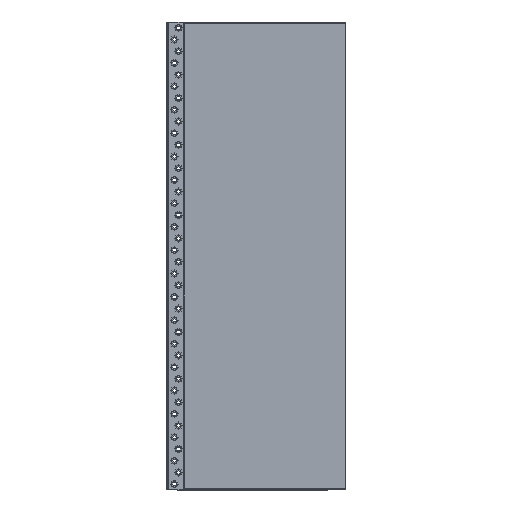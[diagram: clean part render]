
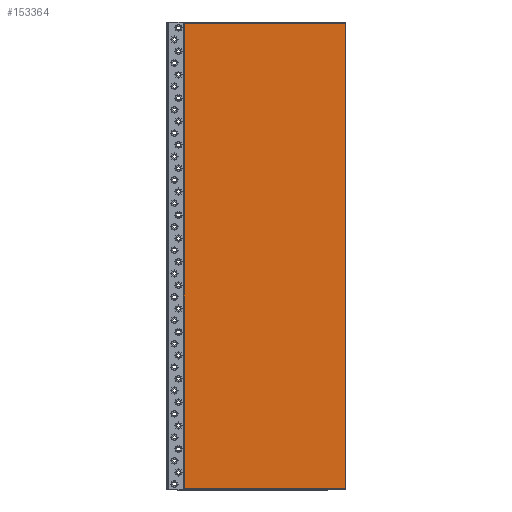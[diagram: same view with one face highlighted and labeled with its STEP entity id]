
A CAD part, top view. The second image highlights one B-rep face of the part: STEP entity #153364.
In plain terms, the highlighted planar face has unit normal (0, 0, 1).
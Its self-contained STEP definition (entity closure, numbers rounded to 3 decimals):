
#153050 = VERTEX_POINT('',#153051);
#153051 = CARTESIAN_POINT('',(13805.885,3003.,
    0.));
#153058 = PLANE('',#153059);
#153059 = AXIS2_PLACEMENT_3D('',#153060,#153061,#153062);
#153060 = CARTESIAN_POINT('',(13805.885,3003.,
    -25.));
#153061 = DIRECTION('',(0.,1.,0.));
#153062 = DIRECTION('',(1.,0.,0.));
#153070 = PLANE('',#153071);
#153071 = AXIS2_PLACEMENT_3D('',#153072,#153073,#153074);
#153072 = CARTESIAN_POINT('',(13805.885,3797.,
    -25.));
#153073 = DIRECTION('',(1.,0.,0.));
#153074 = DIRECTION('',(0.,-1.,0.));
#153082 = EDGE_CURVE('',#153050,#153083,#153085,.T.);
#153083 = VERTEX_POINT('',#153084);
#153084 = CARTESIAN_POINT('',(14081.385,3003.,
    0.));
#153085 = SURFACE_CURVE('',#153086,(#153090,#153097),.PCURVE_S1.);
#153086 = LINE('',#153087,#153088);
#153087 = CARTESIAN_POINT('',(13805.885,3003.,
    0.));
#153088 = VECTOR('',#153089,1.);
#153089 = DIRECTION('',(1.,0.,0.));
#153090 = PCURVE('',#153058,#153091);
#153091 = DEFINITIONAL_REPRESENTATION('',(#153092),#153096);
#153092 = LINE('',#153093,#153094);
#153093 = CARTESIAN_POINT('',(0.,-25.));
#153094 = VECTOR('',#153095,1.);
#153095 = DIRECTION('',(1.,0.));
#153096 = ( GEOMETRIC_REPRESENTATION_CONTEXT(2) 
PARAMETRIC_REPRESENTATION_CONTEXT() REPRESENTATION_CONTEXT('2D SPACE',''
  ) );
#153097 = PCURVE('',#153098,#153103);
#153098 = PLANE('',#153099);
#153099 = AXIS2_PLACEMENT_3D('',#153100,#153101,#153102);
#153100 = CARTESIAN_POINT('',(13943.635,3400.,
    0.));
#153101 = DIRECTION('',(0.,0.,1.));
#153102 = DIRECTION('',(1.,0.,0.));
#153103 = DEFINITIONAL_REPRESENTATION('',(#153104),#153108);
#153104 = LINE('',#153105,#153106);
#153105 = CARTESIAN_POINT('',(-137.75,-397.));
#153106 = VECTOR('',#153107,1.);
#153107 = DIRECTION('',(1.,0.));
#153108 = ( GEOMETRIC_REPRESENTATION_CONTEXT(2) 
PARAMETRIC_REPRESENTATION_CONTEXT() REPRESENTATION_CONTEXT('2D SPACE',''
  ) );
#153126 = PLANE('',#153127);
#153127 = AXIS2_PLACEMENT_3D('',#153128,#153129,#153130);
#153128 = CARTESIAN_POINT('',(14081.385,3003.,
    -25.));
#153129 = DIRECTION('',(-1.,0.,0.));
#153130 = DIRECTION('',(0.,1.,0.));
#153168 = EDGE_CURVE('',#153083,#153169,#153171,.T.);
#153169 = VERTEX_POINT('',#153170);
#153170 = CARTESIAN_POINT('',(14081.385,3797.,
    0.));
#153171 = SURFACE_CURVE('',#153172,(#153176,#153183),.PCURVE_S1.);
#153172 = LINE('',#153173,#153174);
#153173 = CARTESIAN_POINT('',(14081.385,3003.,
    0.));
#153174 = VECTOR('',#153175,1.);
#153175 = DIRECTION('',(0.,1.,0.));
#153176 = PCURVE('',#153126,#153177);
#153177 = DEFINITIONAL_REPRESENTATION('',(#153178),#153182);
#153178 = LINE('',#153179,#153180);
#153179 = CARTESIAN_POINT('',(0.,-25.));
#153180 = VECTOR('',#153181,1.);
#153181 = DIRECTION('',(1.,0.));
#153182 = ( GEOMETRIC_REPRESENTATION_CONTEXT(2) 
PARAMETRIC_REPRESENTATION_CONTEXT() REPRESENTATION_CONTEXT('2D SPACE',''
  ) );
#153183 = PCURVE('',#153098,#153184);
#153184 = DEFINITIONAL_REPRESENTATION('',(#153185),#153189);
#153185 = LINE('',#153186,#153187);
#153186 = CARTESIAN_POINT('',(137.75,-397.));
#153187 = VECTOR('',#153188,1.);
#153188 = DIRECTION('',(0.,1.));
#153189 = ( GEOMETRIC_REPRESENTATION_CONTEXT(2) 
PARAMETRIC_REPRESENTATION_CONTEXT() REPRESENTATION_CONTEXT('2D SPACE',''
  ) );
#153207 = PLANE('',#153208);
#153208 = AXIS2_PLACEMENT_3D('',#153209,#153210,#153211);
#153209 = CARTESIAN_POINT('',(14081.385,3797.,
    -25.));
#153210 = DIRECTION('',(0.,-1.,0.));
#153211 = DIRECTION('',(-1.,0.,0.));
#153244 = EDGE_CURVE('',#153169,#153245,#153247,.T.);
#153245 = VERTEX_POINT('',#153246);
#153246 = CARTESIAN_POINT('',(13805.885,3797.,
    0.));
#153247 = SURFACE_CURVE('',#153248,(#153252,#153259),.PCURVE_S1.);
#153248 = LINE('',#153249,#153250);
#153249 = CARTESIAN_POINT('',(14081.385,3797.,
    0.));
#153250 = VECTOR('',#153251,1.);
#153251 = DIRECTION('',(-1.,0.,0.));
#153252 = PCURVE('',#153207,#153253);
#153253 = DEFINITIONAL_REPRESENTATION('',(#153254),#153258);
#153254 = LINE('',#153255,#153256);
#153255 = CARTESIAN_POINT('',(0.,-25.));
#153256 = VECTOR('',#153257,1.);
#153257 = DIRECTION('',(1.,0.));
#153258 = ( GEOMETRIC_REPRESENTATION_CONTEXT(2) 
PARAMETRIC_REPRESENTATION_CONTEXT() REPRESENTATION_CONTEXT('2D SPACE',''
  ) );
#153259 = PCURVE('',#153098,#153260);
#153260 = DEFINITIONAL_REPRESENTATION('',(#153261),#153265);
#153261 = LINE('',#153262,#153263);
#153262 = CARTESIAN_POINT('',(137.75,397.));
#153263 = VECTOR('',#153264,1.);
#153264 = DIRECTION('',(-1.,0.));
#153265 = ( GEOMETRIC_REPRESENTATION_CONTEXT(2) 
PARAMETRIC_REPRESENTATION_CONTEXT() REPRESENTATION_CONTEXT('2D SPACE',''
  ) );
#153315 = EDGE_CURVE('',#153245,#153050,#153316,.T.);
#153316 = SURFACE_CURVE('',#153317,(#153321,#153328),.PCURVE_S1.);
#153317 = LINE('',#153318,#153319);
#153318 = CARTESIAN_POINT('',(13805.885,3797.,
    0.));
#153319 = VECTOR('',#153320,1.);
#153320 = DIRECTION('',(0.,-1.,0.));
#153321 = PCURVE('',#153070,#153322);
#153322 = DEFINITIONAL_REPRESENTATION('',(#153323),#153327);
#153323 = LINE('',#153324,#153325);
#153324 = CARTESIAN_POINT('',(0.,-25.));
#153325 = VECTOR('',#153326,1.);
#153326 = DIRECTION('',(1.,0.));
#153327 = ( GEOMETRIC_REPRESENTATION_CONTEXT(2) 
PARAMETRIC_REPRESENTATION_CONTEXT() REPRESENTATION_CONTEXT('2D SPACE',''
  ) );
#153328 = PCURVE('',#153098,#153329);
#153329 = DEFINITIONAL_REPRESENTATION('',(#153330),#153334);
#153330 = LINE('',#153331,#153332);
#153331 = CARTESIAN_POINT('',(-137.75,397.));
#153332 = VECTOR('',#153333,1.);
#153333 = DIRECTION('',(0.,-1.));
#153334 = ( GEOMETRIC_REPRESENTATION_CONTEXT(2) 
PARAMETRIC_REPRESENTATION_CONTEXT() REPRESENTATION_CONTEXT('2D SPACE',''
  ) );
#153364 = ADVANCED_FACE('',(#153365),#153098,.T.);
#153365 = FACE_BOUND('',#153366,.T.);
#153366 = EDGE_LOOP('',(#153367,#153368,#153369,#153370));
#153367 = ORIENTED_EDGE('',*,*,#153082,.T.);
#153368 = ORIENTED_EDGE('',*,*,#153168,.T.);
#153369 = ORIENTED_EDGE('',*,*,#153244,.T.);
#153370 = ORIENTED_EDGE('',*,*,#153315,.T.);
